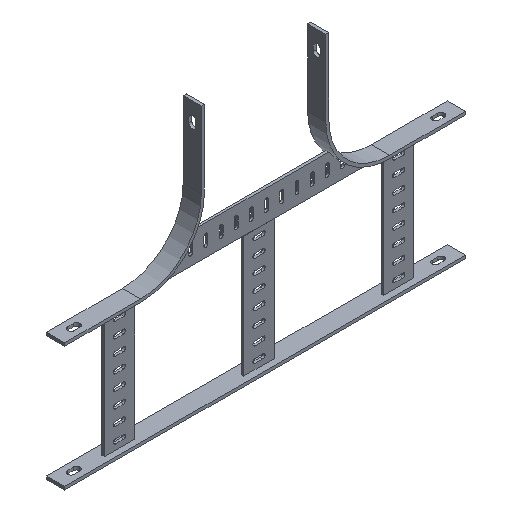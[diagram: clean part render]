
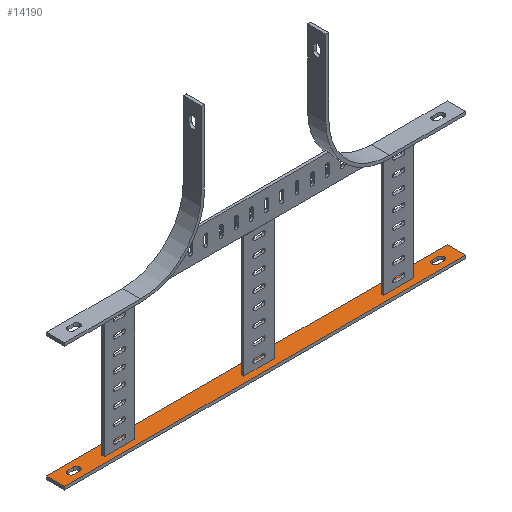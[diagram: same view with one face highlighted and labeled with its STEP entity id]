
A CAD part, isometric view. The second image highlights one B-rep face of the part: STEP entity #14190.
In plain terms, the highlighted planar face has unit normal (0, 0, 1).
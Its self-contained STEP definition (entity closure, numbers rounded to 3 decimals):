
#13080=CARTESIAN_POINT('',(0.,0.,0.));
#13090=DIRECTION('',(0.,0.,1.));
#13100=DIRECTION('',(1.,0.,0.));
#13110=AXIS2_PLACEMENT_3D('',#13080,#13090,#13100);
#13120=PLANE('',#13110);
#13130=CARTESIAN_POINT('',(6.,62.5,0.));
#13140=DIRECTION('',(1.,0.,0.));
#13150=VECTOR('',#13140,1.);
#13160=LINE('',#13130,#13150);
#13170=CARTESIAN_POINT('',(23.5,62.5,0.));
#13180=VERTEX_POINT('',#13170);
#13190=CARTESIAN_POINT('',(32.5,62.5,0.));
#13200=VERTEX_POINT('',#13190);
#13210=EDGE_CURVE('',#13180,#13200,#13160,.T.);
#13220=ORIENTED_EDGE('',*,*,#13210,.T.);
#13230=CARTESIAN_POINT('',(23.5,57.,0.));
#13240=DIRECTION('',(0.,0.,1.));
#13250=DIRECTION('',(1.,0.,0.));
#13260=AXIS2_PLACEMENT_3D('',#13230,#13240,#13250);
#13270=CIRCLE('',#13260,5.5);
#13280=CARTESIAN_POINT('',(23.5,51.5,0.));
#13290=VERTEX_POINT('',#13280);
#13300=EDGE_CURVE('',#13180,#13290,#13270,.T.);
#13310=ORIENTED_EDGE('',*,*,#13300,.F.);
#13320=CARTESIAN_POINT('',(6.,51.5,0.));
#13330=DIRECTION('',(-1.,0.,0.));
#13340=VECTOR('',#13330,1.);
#13350=LINE('',#13320,#13340);
#13360=CARTESIAN_POINT('',(32.5,51.5,0.));
#13370=VERTEX_POINT('',#13360);
#13380=EDGE_CURVE('',#13370,#13290,#13350,.T.);
#13390=ORIENTED_EDGE('',*,*,#13380,.T.);
#13400=CARTESIAN_POINT('',(32.5,57.,0.));
#13410=DIRECTION('',(0.,0.,1.));
#13420=DIRECTION('',(1.,0.,0.));
#13430=AXIS2_PLACEMENT_3D('',#13400,#13410,#13420);
#13440=CIRCLE('',#13430,5.5);
#13450=EDGE_CURVE('',#13370,#13200,#13440,.T.);
#13460=ORIENTED_EDGE('',*,*,#13450,.F.);
#13470=EDGE_LOOP('',(#13460,#13390,#13310,#13220));
#13480=FACE_BOUND('',#13470,.T.);
#13490=CARTESIAN_POINT('',(0.,62.5,0.));
#13500=DIRECTION('',(1.,0.,0.));
#13510=VECTOR('',#13500,1.);
#13520=LINE('',#13490,#13510);
#13530=CARTESIAN_POINT('',(623.5,62.5,0.));
#13540=VERTEX_POINT('',#13530);
#13550=CARTESIAN_POINT('',(632.5,62.5,0.));
#13560=VERTEX_POINT('',#13550);
#13570=EDGE_CURVE('',#13540,#13560,#13520,.T.);
#13580=ORIENTED_EDGE('',*,*,#13570,.T.);
#13590=CARTESIAN_POINT('',(623.5,57.,0.));
#13600=DIRECTION('',(0.,0.,1.));
#13610=DIRECTION('',(1.,0.,0.));
#13620=AXIS2_PLACEMENT_3D('',#13590,#13600,#13610);
#13630=CIRCLE('',#13620,5.5);
#13640=CARTESIAN_POINT('',(623.5,51.5,0.));
#13650=VERTEX_POINT('',#13640);
#13660=EDGE_CURVE('',#13540,#13650,#13630,.T.);
#13670=ORIENTED_EDGE('',*,*,#13660,.F.);
#13680=CARTESIAN_POINT('',(0.,51.5,0.));
#13690=DIRECTION('',(-1.,0.,0.));
#13700=VECTOR('',#13690,1.);
#13710=LINE('',#13680,#13700);
#13720=CARTESIAN_POINT('',(632.5,51.5,0.));
#13730=VERTEX_POINT('',#13720);
#13740=EDGE_CURVE('',#13730,#13650,#13710,.T.);
#13750=ORIENTED_EDGE('',*,*,#13740,.T.);
#13760=CARTESIAN_POINT('',(632.5,57.,0.));
#13770=DIRECTION('',(0.,0.,1.));
#13780=DIRECTION('',(1.,0.,0.));
#13790=AXIS2_PLACEMENT_3D('',#13760,#13770,#13780);
#13800=CIRCLE('',#13790,5.5);
#13810=EDGE_CURVE('',#13730,#13560,#13800,.T.);
#13820=ORIENTED_EDGE('',*,*,#13810,.F.);
#13830=EDGE_LOOP('',(#13820,#13750,#13670,#13580));
#13840=FACE_BOUND('',#13830,.T.);
#13850=CARTESIAN_POINT('',(0.,72.,0.));
#13860=DIRECTION('',(-1.,0.,0.));
#13870=VECTOR('',#13860,1.);
#13880=LINE('',#13850,#13870);
#13890=CARTESIAN_POINT('',(658.,72.,0.));
#13900=VERTEX_POINT('',#13890);
#13910=CARTESIAN_POINT('',(-2.,72.,0.));
#13920=VERTEX_POINT('',#13910);
#13930=EDGE_CURVE('',#13900,#13920,#13880,.T.);
#13940=ORIENTED_EDGE('',*,*,#13930,.T.);
#13950=CARTESIAN_POINT('',(658.,0.,0.));
#13960=DIRECTION('',(0.,1.,0.));
#13970=VECTOR('',#13960,1.);
#13980=LINE('',#13950,#13970);
#13990=CARTESIAN_POINT('',(658.,42.,0.));
#14000=VERTEX_POINT('',#13990);
#14010=EDGE_CURVE('',#14000,#13900,#13980,.T.);
#14020=ORIENTED_EDGE('',*,*,#14010,.T.);
#14030=CARTESIAN_POINT('',(0.,42.,0.));
#14040=DIRECTION('',(1.,0.,0.));
#14050=VECTOR('',#14040,1.);
#14060=LINE('',#14030,#14050);
#14070=CARTESIAN_POINT('',(-2.,42.,0.));
#14080=VERTEX_POINT('',#14070);
#14090=EDGE_CURVE('',#14080,#14000,#14060,.T.);
#14100=ORIENTED_EDGE('',*,*,#14090,.T.);
#14110=CARTESIAN_POINT('',(-2.,0.,0.));
#14120=DIRECTION('',(0.,-1.,0.));
#14130=VECTOR('',#14120,1.);
#14140=LINE('',#14110,#14130);
#14150=EDGE_CURVE('',#13920,#14080,#14140,.T.);
#14160=ORIENTED_EDGE('',*,*,#14150,.T.);
#14170=EDGE_LOOP('',(#14160,#14100,#14020,#13940));
#14180=FACE_OUTER_BOUND('',#14170,.T.);
#14190=ADVANCED_FACE('',(#13480,#13840,#14180),#13120,.T.);
